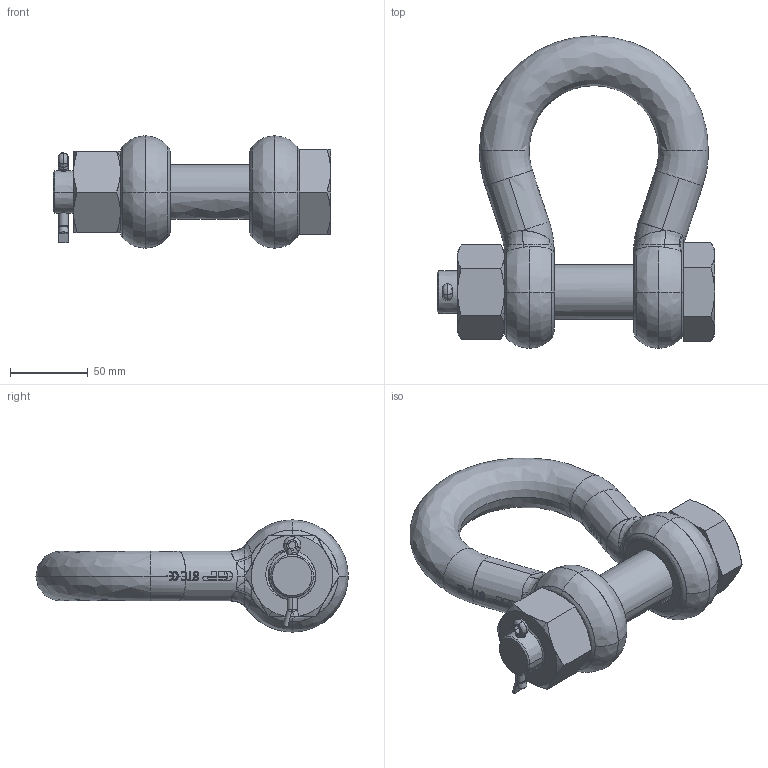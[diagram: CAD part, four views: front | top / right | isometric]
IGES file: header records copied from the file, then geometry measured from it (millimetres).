
Start section: START RECORD GO HERE.
Global section: file name: POGHMB32.igs; native system: Solidworks 2009                             ; preprocessor: Solidworks                 ; author: v.b.; organization: P4; date: 20090826.095244; units: millimetre
Bounding box: 178 x 200.5 x 72 mm (x, y, z)
Surface area: 101099.8 mm2 (no closed solid volume)
Topology: 0 solids, 0 shells, 810 faces, 4767 edges, 4759 vertices
Faces by surface type: plane 317, bspline 302, revolution 191
